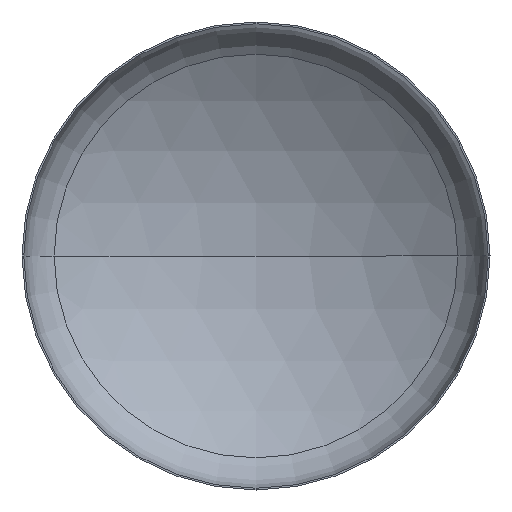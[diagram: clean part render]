
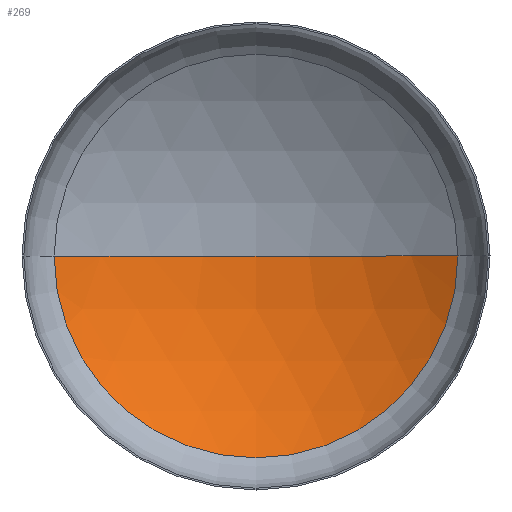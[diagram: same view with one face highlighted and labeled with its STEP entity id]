
A CAD part, front view. The second image highlights one B-rep face of the part: STEP entity #269.
In plain terms, the highlighted spherical face has radius 634 mm.
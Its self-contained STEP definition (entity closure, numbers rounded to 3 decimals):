
#9 = CIRCLE ( 'NONE', #258, 634. ) ;
#19 = CARTESIAN_POINT ( 'NONE',  ( 0., 102.885, 0. ) ) ;
#37 = EDGE_CURVE ( 'NONE', #259, #195, #52, .T. ) ;
#48 = CARTESIAN_POINT ( 'NONE',  ( 0., 205., 0. ) ) ;
#52 = CIRCLE ( 'NONE', #191, 345.042 ) ;
#85 = CARTESIAN_POINT ( 'NONE',  ( 345.042, 102.885, 0. ) ) ;
#143 = CARTESIAN_POINT ( 'NONE',  ( 0., -429., 0. ) ) ;
#154 = AXIS2_PLACEMENT_3D ( 'NONE', #143, #368, #207 ) ;
#169 = CARTESIAN_POINT ( 'NONE',  ( 0., -429., 0. ) ) ;
#173 = AXIS2_PLACEMENT_3D ( 'NONE', #209, #177, #240 ) ;
#177 = DIRECTION ( 'NONE',  ( 0., 0., 1. ) ) ;
#190 = EDGE_CURVE ( 'NONE', #259, #260, #9, .T. ) ;
#191 = AXIS2_PLACEMENT_3D ( 'NONE', #19, #270, #334 ) ;
#195 = VERTEX_POINT ( 'NONE', #297 ) ;
#207 = DIRECTION ( 'NONE',  ( -1., 0., 0. ) ) ;
#209 = CARTESIAN_POINT ( 'NONE',  ( 0., -429., 0. ) ) ;
#234 = EDGE_LOOP ( 'NONE', ( #263, #387, #344 ) ) ;
#240 = DIRECTION ( 'NONE',  ( -1., 0., 0. ) ) ;
#258 = AXIS2_PLACEMENT_3D ( 'NONE', #169, #360, #348 ) ;
#259 = VERTEX_POINT ( 'NONE', #85 ) ;
#260 = VERTEX_POINT ( 'NONE', #48 ) ;
#263 = ORIENTED_EDGE ( 'NONE', *, *, #37, .F. ) ;
#269 = ADVANCED_FACE ( 'NONE', ( #272 ), #330, .F. ) ;
#270 = DIRECTION ( 'NONE',  ( 0., 1., 0. ) ) ;
#272 = FACE_OUTER_BOUND ( 'NONE', #234, .T. ) ;
#285 = EDGE_CURVE ( 'NONE', #195, #260, #333, .T. ) ;
#297 = CARTESIAN_POINT ( 'NONE',  ( -345.042, 102.885, 0. ) ) ;
#330 = SPHERICAL_SURFACE ( 'NONE', #173, 634. ) ;
#333 = CIRCLE ( 'NONE', #154, 634. ) ;
#334 = DIRECTION ( 'NONE',  ( -1., 0., 0. ) ) ;
#344 = ORIENTED_EDGE ( 'NONE', *, *, #285, .F. ) ;
#348 = DIRECTION ( 'NONE',  ( 1., 0., 0. ) ) ;
#360 = DIRECTION ( 'NONE',  ( 0., 0., 1. ) ) ;
#368 = DIRECTION ( 'NONE',  ( 0., 0., -1. ) ) ;
#387 = ORIENTED_EDGE ( 'NONE', *, *, #190, .T. ) ;
